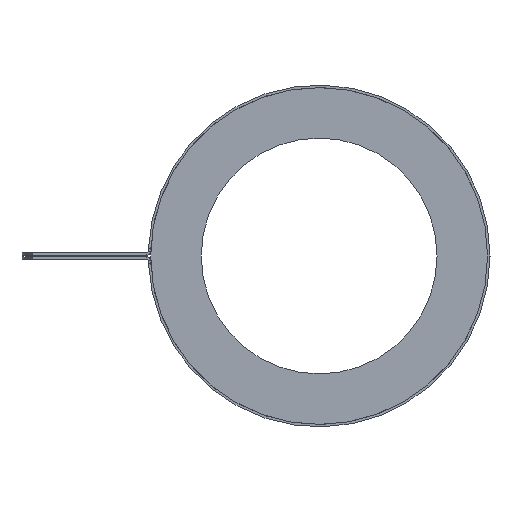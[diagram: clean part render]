
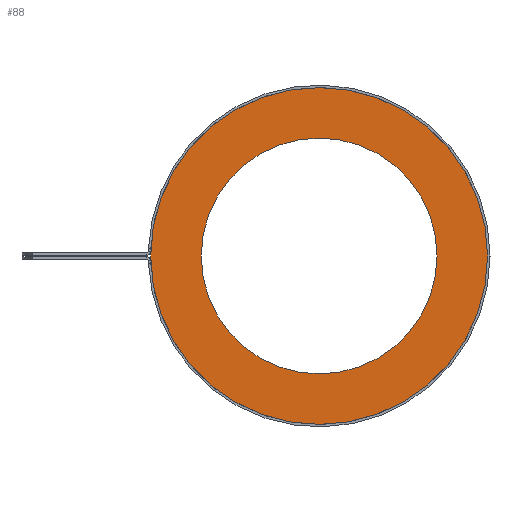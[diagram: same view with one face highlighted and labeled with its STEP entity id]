
A CAD part, left-side view. The second image highlights one B-rep face of the part: STEP entity #88.
In plain terms, the highlighted planar face has unit normal (-1, 0, 0).
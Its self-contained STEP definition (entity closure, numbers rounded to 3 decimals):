
#88 = ADVANCED_FACE ( 'NONE', ( #1385, #1388 ), #135, .F. ) ;
#130 = CARTESIAN_POINT ( 'NONE',  ( -152.4, 0., 0. ) ) ;
#135 = PLANE ( 'NONE',  #182 ) ;
#142 = DIRECTION ( 'NONE',  ( 1., 0., 0. ) ) ;
#143 = DIRECTION ( 'NONE',  ( 0., 0., -1. ) ) ;
#176 = EDGE_CURVE ( 'NONE', #327, #496, #905, .T. ) ;
#182 = AXIS2_PLACEMENT_3D ( 'NONE', #130, #142, #143 ) ;
#189 = EDGE_CURVE ( 'NONE', #325, #274, #921, .T. ) ;
#217 = EDGE_CURVE ( 'NONE', #274, #325, #948, .T. ) ;
#222 = EDGE_CURVE ( 'NONE', #496, #327, #958, .T. ) ;
#274 = VERTEX_POINT ( 'NONE', #1057 ) ;
#325 = VERTEX_POINT ( 'NONE', #1088 ) ;
#327 = VERTEX_POINT ( 'NONE', #1090 ) ;
#404 = EDGE_LOOP ( 'NONE', ( #1355, #1356 ) ) ;
#496 = VERTEX_POINT ( 'NONE', #1097 ) ;
#573 = CARTESIAN_POINT ( 'NONE',  ( -152.4, 0., 0. ) ) ;
#574 = DIRECTION ( 'NONE',  ( 1., 0., 0. ) ) ;
#575 = DIRECTION ( 'NONE',  ( 0., 0., -1. ) ) ;
#766 = AXIS2_PLACEMENT_3D ( 'NONE', #1123, #1124, #1125 ) ;
#772 = AXIS2_PLACEMENT_3D ( 'NONE', #573, #574, #575 ) ;
#783 = AXIS2_PLACEMENT_3D ( 'NONE', #1264, #1265, #1266 ) ;
#789 = AXIS2_PLACEMENT_3D ( 'NONE', #1252, #1253, #1254 ) ;
#905 = CIRCLE ( 'NONE', #772, 31.75 ) ;
#921 = CIRCLE ( 'NONE', #766, 22.225 ) ;
#948 = CIRCLE ( 'NONE', #789, 22.225 ) ;
#958 = CIRCLE ( 'NONE', #783, 31.75 ) ;
#1057 = CARTESIAN_POINT ( 'NONE',  ( -152.4, 0., 22.225 ) ) ;
#1088 = CARTESIAN_POINT ( 'NONE',  ( -152.4, 0., -22.225 ) ) ;
#1090 = CARTESIAN_POINT ( 'NONE',  ( -152.4, 0., 31.75 ) ) ;
#1097 = CARTESIAN_POINT ( 'NONE',  ( -152.4, 0., -31.75 ) ) ;
#1123 = CARTESIAN_POINT ( 'NONE',  ( -152.4, 0., 0. ) ) ;
#1124 = DIRECTION ( 'NONE',  ( 1., 0., 0. ) ) ;
#1125 = DIRECTION ( 'NONE',  ( 0., 0., -1. ) ) ;
#1252 = CARTESIAN_POINT ( 'NONE',  ( -152.4, 0., 0. ) ) ;
#1253 = DIRECTION ( 'NONE',  ( 1., 0., 0. ) ) ;
#1254 = DIRECTION ( 'NONE',  ( 0., 0., -1. ) ) ;
#1264 = CARTESIAN_POINT ( 'NONE',  ( -152.4, 0., 0. ) ) ;
#1265 = DIRECTION ( 'NONE',  ( 1., 0., 0. ) ) ;
#1266 = DIRECTION ( 'NONE',  ( 0., 0., -1. ) ) ;
#1353 = ORIENTED_EDGE ( 'NONE', *, *, #176, .F. ) ;
#1354 = ORIENTED_EDGE ( 'NONE', *, *, #222, .F. ) ;
#1355 = ORIENTED_EDGE ( 'NONE', *, *, #217, .T. ) ;
#1356 = ORIENTED_EDGE ( 'NONE', *, *, #189, .T. ) ;
#1374 = EDGE_LOOP ( 'NONE', ( #1353, #1354 ) ) ;
#1385 = FACE_OUTER_BOUND ( 'NONE', #1374, .T. ) ;
#1388 = FACE_BOUND ( 'NONE', #404, .T. ) ;
